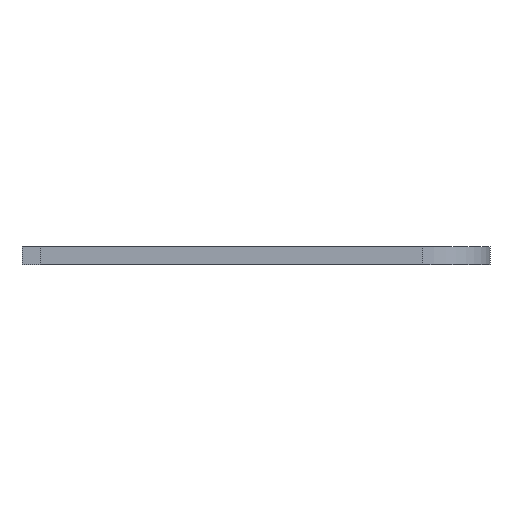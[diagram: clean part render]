
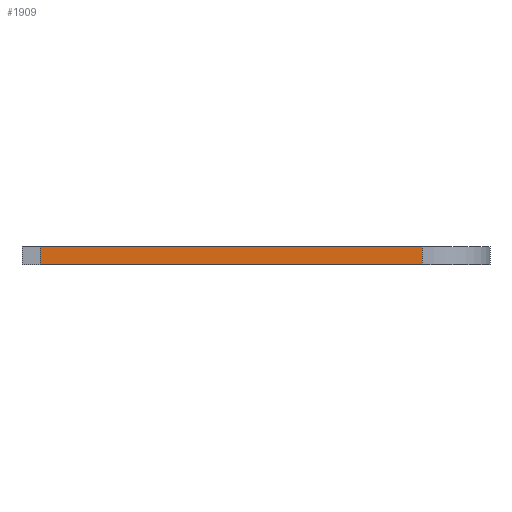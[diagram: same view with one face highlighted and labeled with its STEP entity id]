
A CAD part, front view. The second image highlights one B-rep face of the part: STEP entity #1909.
In plain terms, the highlighted planar face has unit normal (0, -1, 0).
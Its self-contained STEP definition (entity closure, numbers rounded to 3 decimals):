
#121=FACE_OUTER_BOUND('',#227,.T.);
#227=EDGE_LOOP('',(#1581,#1582,#1583,#1584));
#482=LINE('',#2940,#742);
#483=LINE('',#2944,#743);
#484=LINE('',#2948,#744);
#485=LINE('',#2949,#745);
#742=VECTOR('',#2405,10.);
#743=VECTOR('',#2410,10.);
#744=VECTOR('',#2415,10.);
#745=VECTOR('',#2416,10.);
#938=VERTEX_POINT('',#2937);
#939=VERTEX_POINT('',#2939);
#940=VERTEX_POINT('',#2943);
#941=VERTEX_POINT('',#2947);
#1180=EDGE_CURVE('',#938,#939,#482,.T.);
#1182=EDGE_CURVE('',#939,#940,#483,.T.);
#1184=EDGE_CURVE('',#941,#938,#484,.T.);
#1185=EDGE_CURVE('',#941,#940,#485,.T.);
#1581=ORIENTED_EDGE('',*,*,#1182,.F.);
#1582=ORIENTED_EDGE('',*,*,#1180,.F.);
#1583=ORIENTED_EDGE('',*,*,#1184,.F.);
#1584=ORIENTED_EDGE('',*,*,#1185,.T.);
#1819=PLANE('',#2026);
#1909=ADVANCED_FACE('',(#121),#1819,.T.);
#2026=AXIS2_PLACEMENT_3D('',#2946,#2413,#2414);
#2405=DIRECTION('',(1.,0.,0.));
#2410=DIRECTION('',(0.,0.,-1.));
#2413=DIRECTION('center_axis',(0.,-1.,0.));
#2414=DIRECTION('ref_axis',(1.,0.,0.));
#2415=DIRECTION('',(0.,0.,1.));
#2416=DIRECTION('',(1.,0.,0.));
#2937=CARTESIAN_POINT('',(-100.,-210.,8.));
#2939=CARTESIAN_POINT('',(70.,-210.,8.));
#2940=CARTESIAN_POINT('',(-100.,-210.,8.));
#2943=CARTESIAN_POINT('',(70.,-210.,0.));
#2944=CARTESIAN_POINT('',(70.,-210.,0.));
#2946=CARTESIAN_POINT('Origin',(-100.,-210.,0.));
#2947=CARTESIAN_POINT('',(-100.,-210.,0.));
#2948=CARTESIAN_POINT('',(-100.,-210.,0.));
#2949=CARTESIAN_POINT('',(-100.,-210.,0.));
